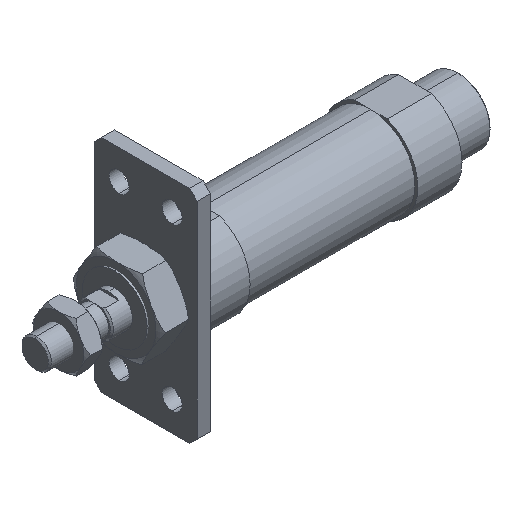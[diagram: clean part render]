
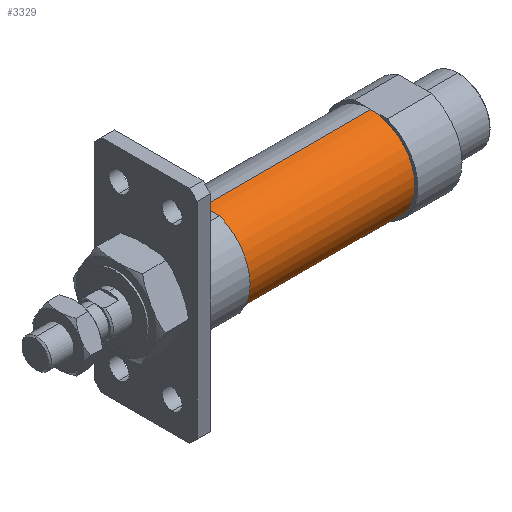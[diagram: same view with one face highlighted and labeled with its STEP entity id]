
A CAD part, isometric view. The second image highlights one B-rep face of the part: STEP entity #3329.
In plain terms, the highlighted cylindrical face has radius 15 mm (diameter 30 mm), a partial arc.
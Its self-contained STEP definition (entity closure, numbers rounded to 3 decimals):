
#302 = CARTESIAN_POINT ( 'NONE',  ( 114., 0., 0. ) ) ;
#353 = CARTESIAN_POINT ( 'NONE',  ( 114., 0., 15. ) ) ;
#404 = AXIS2_PLACEMENT_3D ( 'NONE', #302, #2630, #4039 ) ;
#486 = DIRECTION ( 'NONE',  ( -1., 0., 0. ) ) ;
#651 = FACE_OUTER_BOUND ( 'NONE', #3391, .T. ) ;
#676 = EDGE_CURVE ( 'NONE', #1627, #696, #2104, .T. ) ;
#696 = VERTEX_POINT ( 'NONE', #1220 ) ;
#719 = CYLINDRICAL_SURFACE ( 'NONE', #2798, 15. ) ;
#760 = VERTEX_POINT ( 'NONE', #1616 ) ;
#956 = LINE ( 'NONE', #2946, #1937 ) ;
#1220 = CARTESIAN_POINT ( 'NONE',  ( 57., 0., 15. ) ) ;
#1225 = VERTEX_POINT ( 'NONE', #1706 ) ;
#1284 = DIRECTION ( 'NONE',  ( -1., 0., 0. ) ) ;
#1464 = ORIENTED_EDGE ( 'NONE', *, *, #2468, .F. ) ;
#1616 = CARTESIAN_POINT ( 'NONE',  ( 114., 0., -15. ) ) ;
#1627 = VERTEX_POINT ( 'NONE', #353 ) ;
#1706 = CARTESIAN_POINT ( 'NONE',  ( 57., 0., -15. ) ) ;
#1855 = ORIENTED_EDGE ( 'NONE', *, *, #676, .T. ) ;
#1937 = VECTOR ( 'NONE', #1284, 1000. ) ;
#1962 = EDGE_CURVE ( 'NONE', #1225, #696, #2465, .T. ) ;
#2080 = CIRCLE ( 'NONE', #404, 15. ) ;
#2104 = LINE ( 'NONE', #3822, #2404 ) ;
#2226 = EDGE_CURVE ( 'NONE', #760, #1627, #2080, .T. ) ;
#2404 = VECTOR ( 'NONE', #486, 1000. ) ;
#2465 = CIRCLE ( 'NONE', #2598, 15. ) ;
#2468 = EDGE_CURVE ( 'NONE', #760, #1225, #956, .T. ) ;
#2598 = AXIS2_PLACEMENT_3D ( 'NONE', #2616, #3154, #3085 ) ;
#2616 = CARTESIAN_POINT ( 'NONE',  ( 57., 0., 0. ) ) ;
#2630 = DIRECTION ( 'NONE',  ( -1., 0., 0. ) ) ;
#2759 = ORIENTED_EDGE ( 'NONE', *, *, #1962, .F. ) ;
#2798 = AXIS2_PLACEMENT_3D ( 'NONE', #3233, #3094, #3573 ) ;
#2946 = CARTESIAN_POINT ( 'NONE',  ( -6.469, 0., -15. ) ) ;
#3085 = DIRECTION ( 'NONE',  ( 0., 0., 1. ) ) ;
#3094 = DIRECTION ( 'NONE',  ( -1., 0., 0. ) ) ;
#3154 = DIRECTION ( 'NONE',  ( -1., 0., 0. ) ) ;
#3233 = CARTESIAN_POINT ( 'NONE',  ( -6.469, 0., 0. ) ) ;
#3329 = ADVANCED_FACE ( 'NONE', ( #651 ), #719, .T. ) ;
#3391 = EDGE_LOOP ( 'NONE', ( #1464, #4062, #1855, #2759 ) ) ;
#3573 = DIRECTION ( 'NONE',  ( 0., 0., 1. ) ) ;
#3822 = CARTESIAN_POINT ( 'NONE',  ( -6.469, 0., 15. ) ) ;
#4039 = DIRECTION ( 'NONE',  ( 0., 0., 1. ) ) ;
#4062 = ORIENTED_EDGE ( 'NONE', *, *, #2226, .T. ) ;
